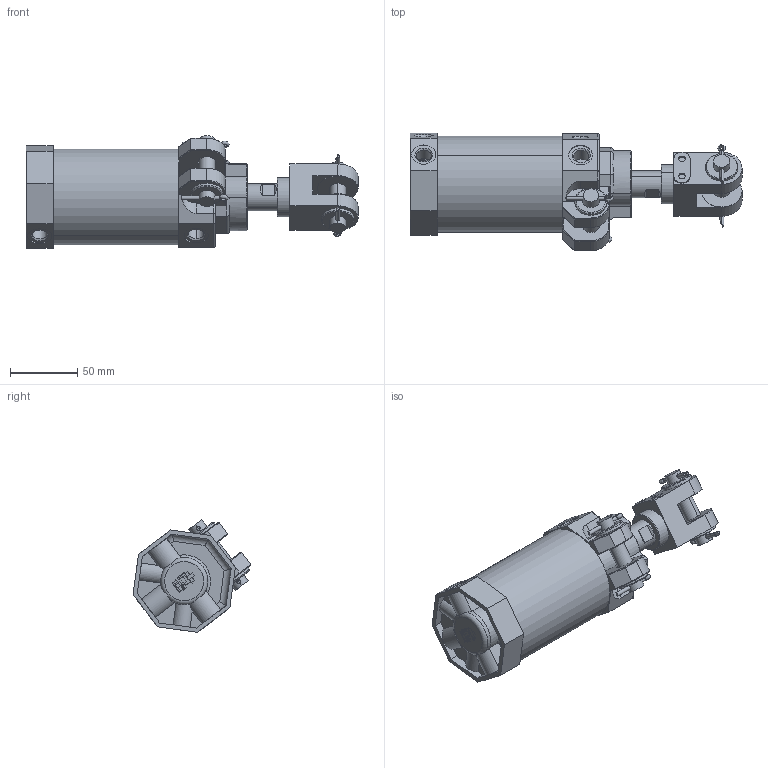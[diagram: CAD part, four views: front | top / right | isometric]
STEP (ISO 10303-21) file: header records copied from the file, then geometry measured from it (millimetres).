
FILE_DESCRIPTION(('CATIA V5 STEP Exchange'),'2;1');
FILE_NAME('D:\stp file for catalog\PRCCA\prcca 63\PRCCA 63-20-50.stp','2015-05-05T06:57:14+00:00',('none'),('none'),'Version 5-6 Release 2012','CATIA V5 STEP AP203','none');
FILE_SCHEMA(('CONFIG_CONTROL_DESIGN'));
Length unit declared in the file: millimetre
Products named in the file (3): pncca 63-20-50; Product1.1; PNCCA 50-20-50-02
Assembly tree (14 placements, depth 3):
  pncca 63-20-50
    Product1.1
      #66
      #7309
      #7478
      #14308  x2
      #14830
      #15156
      #15388
    PNCCA 50-20-50-02
      #15626
      #14830
      #14308  x2
Bounding box: 246.2 x 87.47 x 83.54 mm (x, y, z)
Volume: 453274.8 mm3; surface area: 135184.8 mm2
Topology: 12 solids, 12 shells, 636 faces, 1569 edges, 1005 vertices
Faces by surface type: cylinder 263, plane 256, cone 57, revolution 32, torus 18, bspline 9, extrusion 1
Entity records: 17914 total; most frequent: CARTESIAN_POINT 4489, ORIENTED_EDGE 2922, DIRECTION 2203, EDGE_CURVE 1461, AXIS2_PLACEMENT_3D 973, VERTEX_POINT 933, VECTOR 778, LINE 777
